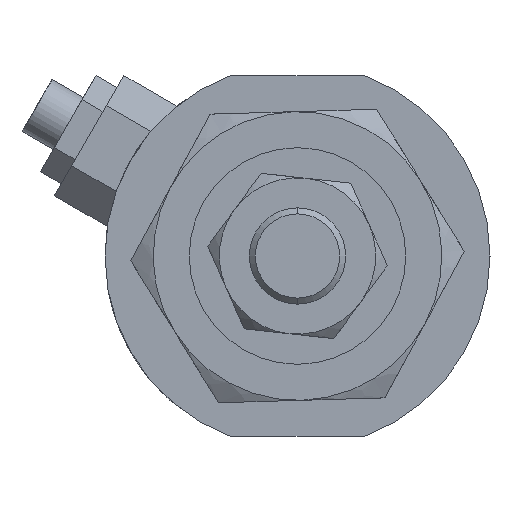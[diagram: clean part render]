
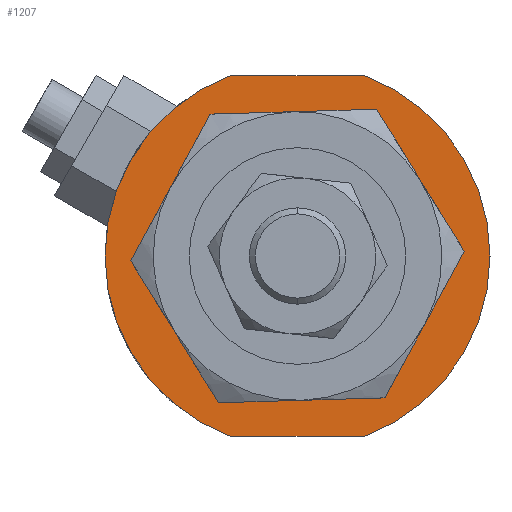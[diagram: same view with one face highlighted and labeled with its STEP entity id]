
A CAD part, left-side view. The second image highlights one B-rep face of the part: STEP entity #1207.
In plain terms, the highlighted planar face has unit normal (-1, 0, 0).
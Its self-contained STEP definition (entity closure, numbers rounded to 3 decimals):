
#130 = CIRCLE ( 'NONE', #2568, 16. ) ;
#193 = CARTESIAN_POINT ( 'NONE',  ( 34., 0., -9.5 ) ) ;
#218 = VERTEX_POINT ( 'NONE', #1010 ) ;
#236 = DIRECTION ( 'NONE',  ( 1., 0., 0. ) ) ;
#481 = DIRECTION ( 'NONE',  ( -1., 0., 0. ) ) ;
#501 = VERTEX_POINT ( 'NONE', #193 ) ;
#520 = CARTESIAN_POINT ( 'NONE',  ( 34., 5.568, 15. ) ) ;
#812 = CARTESIAN_POINT ( 'NONE',  ( 34., 0., 0. ) ) ;
#933 = FACE_OUTER_BOUND ( 'NONE', #2988, .T. ) ;
#948 = VECTOR ( 'NONE', #1961, 1000. ) ;
#1010 = CARTESIAN_POINT ( 'NONE',  ( 34., -5.568, 15. ) ) ;
#1091 = PLANE ( 'NONE',  #2522 ) ;
#1136 = CIRCLE ( 'NONE', #3119, 9.5 ) ;
#1137 = VERTEX_POINT ( 'NONE', #520 ) ;
#1207 = ADVANCED_FACE ( 'NONE', ( #2389, #933 ), #1091, .F. ) ;
#1348 = CARTESIAN_POINT ( 'NONE',  ( 34., 0., 0. ) ) ;
#1393 = CARTESIAN_POINT ( 'NONE',  ( 34., -5.568, -15. ) ) ;
#1515 = DIRECTION ( 'NONE',  ( 0., 0., 1. ) ) ;
#1623 = CARTESIAN_POINT ( 'NONE',  ( 34., 0., 9.5 ) ) ;
#1911 = EDGE_CURVE ( 'NONE', #1137, #218, #2450, .T. ) ;
#1961 = DIRECTION ( 'NONE',  ( 0., -1., 0. ) ) ;
#2020 = CARTESIAN_POINT ( 'NONE',  ( 34., 0., 0. ) ) ;
#2060 = AXIS2_PLACEMENT_3D ( 'NONE', #3450, #2817, #3853 ) ;
#2127 = VERTEX_POINT ( 'NONE', #3762 ) ;
#2173 = DIRECTION ( 'NONE',  ( 0., 0., 1. ) ) ;
#2186 = EDGE_CURVE ( 'NONE', #1137, #2127, #130, .T. ) ;
#2308 = CARTESIAN_POINT ( 'NONE',  ( 34., 0., -16. ) ) ;
#2365 = ORIENTED_EDGE ( 'NONE', *, *, #3489, .F. ) ;
#2389 = FACE_BOUND ( 'NONE', #3924, .T. ) ;
#2450 = LINE ( 'NONE', #4598, #948 ) ;
#2455 = LINE ( 'NONE', #4450, #2713 ) ;
#2472 = AXIS2_PLACEMENT_3D ( 'NONE', #812, #3860, #1515 ) ;
#2522 = AXIS2_PLACEMENT_3D ( 'NONE', #2308, #236, #2946 ) ;
#2568 = AXIS2_PLACEMENT_3D ( 'NONE', #2020, #4580, #3359 ) ;
#2647 = EDGE_CURVE ( 'NONE', #3045, #2127, #2455, .T. ) ;
#2713 = VECTOR ( 'NONE', #2994, 1000. ) ;
#2750 = ORIENTED_EDGE ( 'NONE', *, *, #2186, .T. ) ;
#2817 = DIRECTION ( 'NONE',  ( -1., 0., 0. ) ) ;
#2946 = DIRECTION ( 'NONE',  ( 0., 0., -1. ) ) ;
#2988 = EDGE_LOOP ( 'NONE', ( #2750, #3315, #3477, #4770 ) ) ;
#2994 = DIRECTION ( 'NONE',  ( 0., 1., 0. ) ) ;
#3045 = VERTEX_POINT ( 'NONE', #1393 ) ;
#3119 = AXIS2_PLACEMENT_3D ( 'NONE', #1348, #481, #2173 ) ;
#3315 = ORIENTED_EDGE ( 'NONE', *, *, #2647, .F. ) ;
#3359 = DIRECTION ( 'NONE',  ( 0., 0., 1. ) ) ;
#3397 = CIRCLE ( 'NONE', #2472, 9.5 ) ;
#3450 = CARTESIAN_POINT ( 'NONE',  ( 34., 0., 0. ) ) ;
#3477 = ORIENTED_EDGE ( 'NONE', *, *, #3530, .T. ) ;
#3489 = EDGE_CURVE ( 'NONE', #501, #4535, #1136, .T. ) ;
#3530 = EDGE_CURVE ( 'NONE', #3045, #218, #4344, .T. ) ;
#3601 = EDGE_CURVE ( 'NONE', #4535, #501, #3397, .T. ) ;
#3762 = CARTESIAN_POINT ( 'NONE',  ( 34., 5.568, -15. ) ) ;
#3853 = DIRECTION ( 'NONE',  ( 0., 0., 1. ) ) ;
#3860 = DIRECTION ( 'NONE',  ( -1., 0., 0. ) ) ;
#3910 = ORIENTED_EDGE ( 'NONE', *, *, #3601, .F. ) ;
#3924 = EDGE_LOOP ( 'NONE', ( #3910, #2365 ) ) ;
#4344 = CIRCLE ( 'NONE', #2060, 16. ) ;
#4450 = CARTESIAN_POINT ( 'NONE',  ( 34., 15., -15. ) ) ;
#4535 = VERTEX_POINT ( 'NONE', #1623 ) ;
#4580 = DIRECTION ( 'NONE',  ( -1., 0., 0. ) ) ;
#4598 = CARTESIAN_POINT ( 'NONE',  ( 34., 15., 15. ) ) ;
#4770 = ORIENTED_EDGE ( 'NONE', *, *, #1911, .F. ) ;
